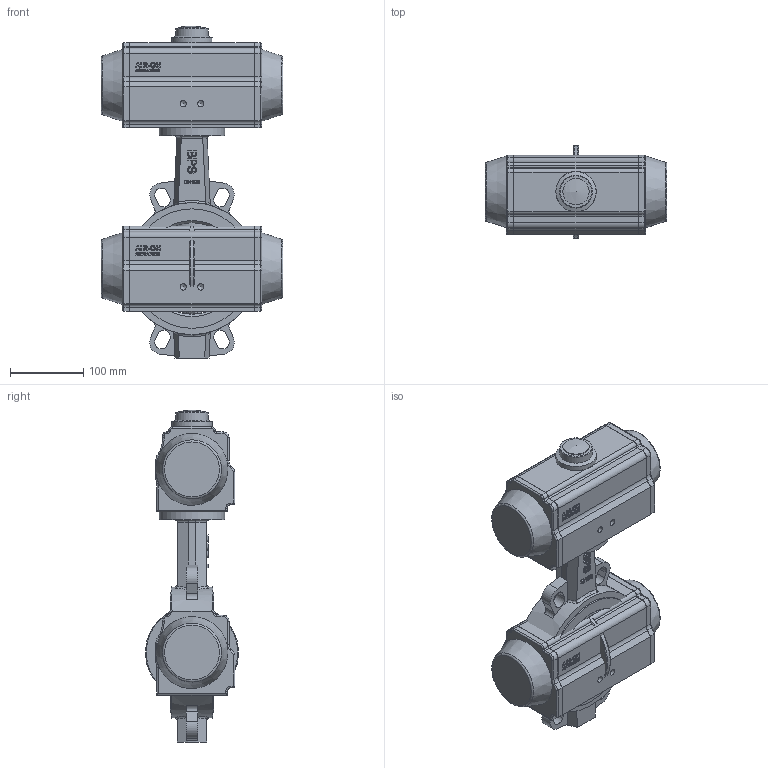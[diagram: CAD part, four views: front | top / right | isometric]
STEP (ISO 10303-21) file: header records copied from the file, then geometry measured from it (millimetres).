
FILE_DESCRIPTION( ( 'Unknown' ), '1' );
FILE_NAME( 'R:/ECCUA/ROOTSI BPS 3D vidinad/Poordklapid Wafer type/Butterfly valve(wafer) with pneumatic actuator BPS/STEP formaat/BPS 2303125P butterfly valve DN125.stp', 'Unknown', ( 'Unknown' ), ( 'Unknown' ), 'PSStep 10.1', 'Unknown', ' ' );
FILE_SCHEMA( ( 'AUTOMOTIVE_DESIGN { 1 0 10303 214 1 1 1 1 }' ) );
Length unit declared in the file: millimetre
Products named in the file (5): Assem1; Butterfly valve wafer type DN125 BPS; BPS 8300088DA-SR pneumatic actuator
Bounding box: 248 x 126.54 x 453 mm (x, y, z)
Volume: 7516352.6 mm3; surface area: 647831.6 mm2
Topology: 8 solids, 8 shells, 1040 faces, 2668 edges, 1724 vertices
Faces by surface type: plane 330, extrusion 308, cylinder 240, torus 74, bspline 48, cone 38, sphere 2
Full cylindrical faces by diameter (mm): 4.917 x8, 6.647 x8, 8.376 x8, 8.566 x4, 9 x8, 36 x2, 45 x2, 55 x2, 90 x2, 125 x2, 163 x4, 180 x2
Entity records: 24401 total; most frequent: CARTESIAN_POINT 8270, ORIENTED_EDGE 2488, DIRECTION 2138, EDGE_CURVE 1244, VERTEX_POINT 840, VECTOR 792, AXIS2_PLACEMENT_3D 673, LINE 638
